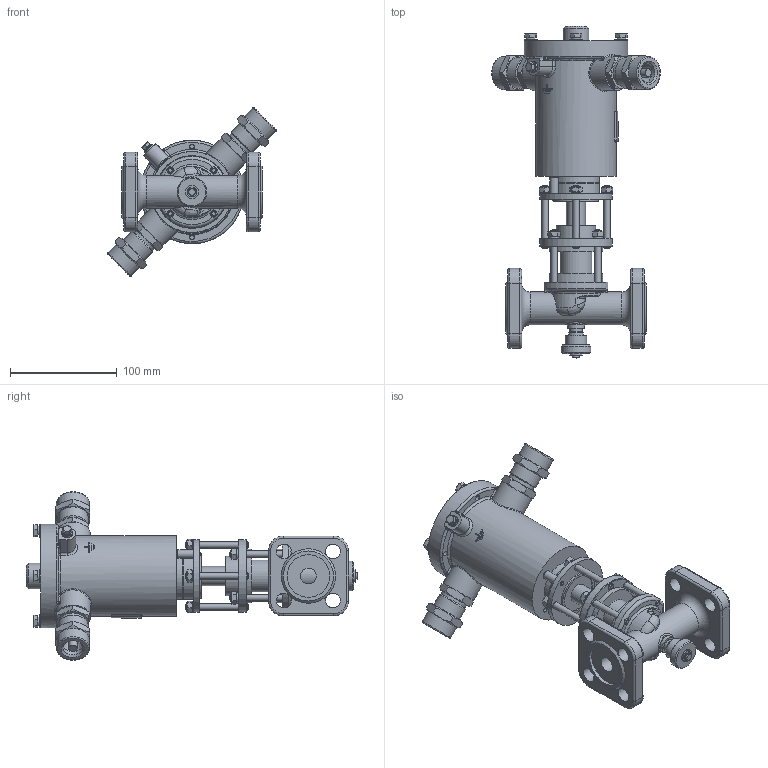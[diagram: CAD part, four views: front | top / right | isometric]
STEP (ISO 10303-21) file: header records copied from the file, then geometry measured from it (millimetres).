
FILE_DESCRIPTION(('STEP AP203'), '1');
FILE_NAME('ÑÅÍÑ DN15PN25-Â-200Ñ-ÑÂ.stp', '2018-09-19T08:48:45', ('Îðëîâ Å.Â.'), ('ÎÎÎ ÍÏÏ Ñåíñîð'), 'ASCON STEP Converter 1.3', 'Kompas 3D', '');
FILE_SCHEMA(('CONFIG_CONTROL_DESIGN','SUPPORT_RESOURCE_SCHEMA'));
Length unit declared in the file: millimetre
Products named in the file (1): 64
Bounding box: 158.26 x 311.5 x 158.26 mm (x, y, z)
Volume: 714225.2 mm3; surface area: 236206.7 mm2
Topology: 3 solids, 19 shells, 2119 faces, 5547 edges, 3594 vertices
Faces by surface type: cylinder 1059, plane 802, cone 162, torus 46, bspline 34, extrusion 16
Full cylindrical faces by diameter (mm): 2.459 x4, 4 x8, 4.134 x1, 4.5 x2, 4.917 x4, 5 x2, 5.1 x1, 6 x28, 6.1 x1, 6.3 x2, 6.4 x1, 6.5 x15, 7 x1, 8 x7, 9 x1, 10 x3, 11 x1, 11.5 x1, 12 x5, 12.376 x1, 13 x2, 14 x9, 15 x4, 16 x1, 16.5 x1, 18 x1, 18.5 x1, 18.632 x2, 20 x3, 21 x1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
Entity records: 81586 total; most frequent: CARTESIAN_POINT 28182, DIRECTION 11603, ORIENTED_EDGE 11022, EDGE_CURVE 5511, AXIS2_PLACEMENT_3D 4495, VERTEX_POINT 3584, VECTOR 2613, LINE 2597
